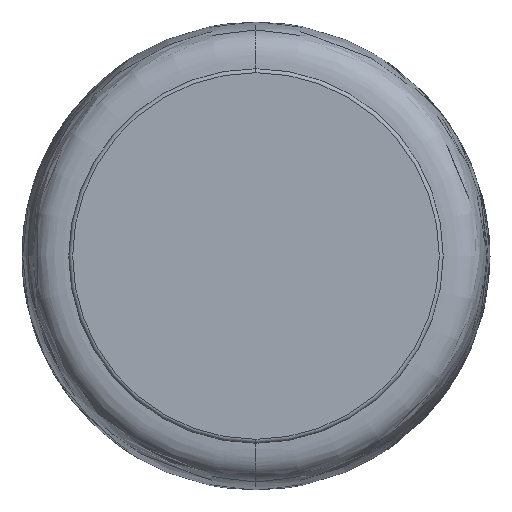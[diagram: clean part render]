
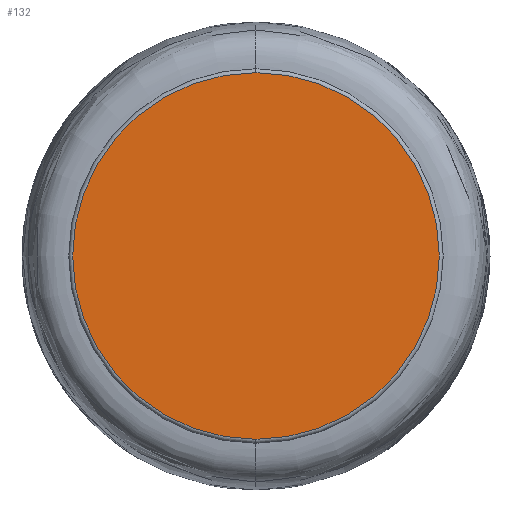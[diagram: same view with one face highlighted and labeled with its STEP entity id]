
A CAD part, front view. The second image highlights one B-rep face of the part: STEP entity #132.
In plain terms, the highlighted planar face has unit normal (0, -1, 0).
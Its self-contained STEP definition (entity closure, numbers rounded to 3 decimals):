
#20=CARTESIAN_POINT('',(0.,-1.5,0.));
#21=DIRECTION('',(0.,-1.,0.));
#22=DIRECTION('',(0.,0.,-1.));
#23=AXIS2_PLACEMENT_3D('',#20,#21,#22);
#25=CARTESIAN_POINT('',(0.,-1.5,0.));
#26=DIRECTION('',(0.,-1.,0.));
#27=DIRECTION('',(0.,0.,1.));
#28=AXIS2_PLACEMENT_3D('',#25,#26,#27);
#95=CARTESIAN_POINT('',(0.,-1.5,-23.5));
#96=CARTESIAN_POINT('',(0.,-1.5,23.5));
#97=VERTEX_POINT('',#95);
#98=VERTEX_POINT('',#96);
#122=CARTESIAN_POINT('',(0.,-1.5,0.));
#123=DIRECTION('',(0.,1.,0.));
#124=DIRECTION('',(0.,0.,-1.));
#125=AXIS2_PLACEMENT_3D('',#122,#123,#124);
#126=PLANE('',#125);
#127=ORIENTED_EDGE('',*,*,#104,.F.);
#129=ORIENTED_EDGE('',*,*,#128,.F.);
#130=EDGE_LOOP('',(#127,#129));
#131=FACE_OUTER_BOUND('',#130,.F.);
#24=CIRCLE('',#23,23.5);
#29=CIRCLE('',#28,23.5);
#104=EDGE_CURVE('',#97,#98,#24,.T.);
#128=EDGE_CURVE('',#98,#97,#29,.T.);
#132=ADVANCED_FACE('',(#131),#126,.F.);
